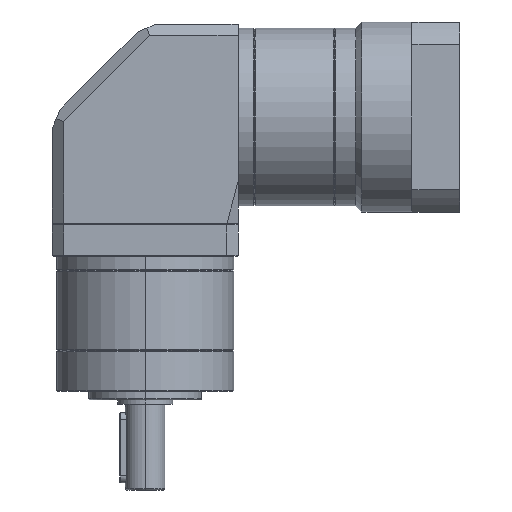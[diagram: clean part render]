
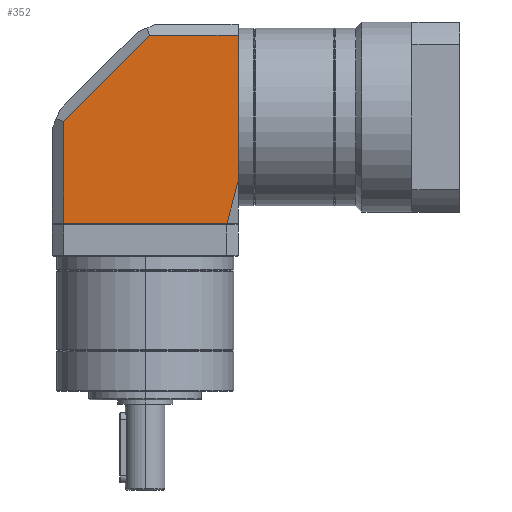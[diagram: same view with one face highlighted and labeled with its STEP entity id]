
A CAD part, left-side view. The second image highlights one B-rep face of the part: STEP entity #352.
In plain terms, the highlighted planar face has unit normal (-1, 0, 0).
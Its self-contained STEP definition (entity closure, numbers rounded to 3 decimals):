
#158=PLANE('',#3657);
#352=ADVANCED_FACE('',(#612),#158,.F.);
#612=FACE_OUTER_BOUND('',#837,.T.);
#837=EDGE_LOOP('',(#1587,#1588,#1589,#1590,#1591,#1592));
#1587=ORIENTED_EDGE('',*,*,#2679,.T.);
#1588=ORIENTED_EDGE('',*,*,#2637,.T.);
#1589=ORIENTED_EDGE('',*,*,#2647,.F.);
#1590=ORIENTED_EDGE('',*,*,#2684,.F.);
#1591=ORIENTED_EDGE('',*,*,#2673,.T.);
#1592=ORIENTED_EDGE('',*,*,#2677,.T.);
#2271=VERTEX_POINT('',#5489);
#2273=VERTEX_POINT('',#5493);
#2278=VERTEX_POINT('',#5512);
#2297=VERTEX_POINT('',#5564);
#2298=VERTEX_POINT('',#5566);
#2299=VERTEX_POINT('',#5571);
#2637=EDGE_CURVE('',#2271,#2273,#3027,.T.);
#2647=EDGE_CURVE('',#2278,#2273,#3037,.T.);
#2673=EDGE_CURVE('',#2298,#2297,#3063,.T.);
#2677=EDGE_CURVE('',#2297,#2299,#3067,.T.);
#2679=EDGE_CURVE('',#2299,#2271,#3069,.T.);
#2684=EDGE_CURVE('',#2298,#2278,#3073,.T.);
#3027=LINE('',#5494,#3321);
#3037=LINE('',#5513,#3331);
#3063=LINE('',#5565,#3357);
#3067=LINE('',#5572,#3361);
#3069=LINE('',#5575,#3363);
#3073=LINE('',#5587,#3367);
#3321=VECTOR('',#4331,1.);
#3331=VECTOR('',#4349,1.);
#3357=VECTOR('',#4389,1.);
#3361=VECTOR('',#4395,1.);
#3363=VECTOR('',#4399,1.);
#3367=VECTOR('',#4415,1.);
#3657=AXIS2_PLACEMENT_3D('',#5588,#4416,#4417);
#4331=DIRECTION('',(0.,-1.,0.));
#4349=DIRECTION('',(0.,0.258,-0.966));
#4389=DIRECTION('',(0.,1.,0.));
#4395=DIRECTION('',(0.,0.707,-0.707));
#4399=DIRECTION('',(0.,0.,-1.));
#4415=DIRECTION('',(0.,0.,-1.));
#4416=DIRECTION('',(1.,0.,0.));
#4417=DIRECTION('',(0.,0.,-1.));
#5489=CARTESIAN_POINT('',(-33.,29.,59.8));
#5493=CARTESIAN_POINT('',(-33.,-29.08,59.8));
#5494=CARTESIAN_POINT('',(-33.,-33.,59.8));
#5512=CARTESIAN_POINT('',(-33.,-33.,74.5));
#5513=CARTESIAN_POINT('',(-33.,-46.942,126.782));
#5564=CARTESIAN_POINT('',(-33.,-1.657,126.5));
#5565=CARTESIAN_POINT('',(-33.,0.,126.5));
#5566=CARTESIAN_POINT('',(-33.,-33.,126.5));
#5571=CARTESIAN_POINT('',(-33.,29.,95.843));
#5572=CARTESIAN_POINT('',(-33.,30.172,94.672));
#5575=CARTESIAN_POINT('',(-33.,29.,130.5));
#5587=CARTESIAN_POINT('',(-33.,-33.,130.5));
#5588=CARTESIAN_POINT('',(-33.,-33.,130.5));
